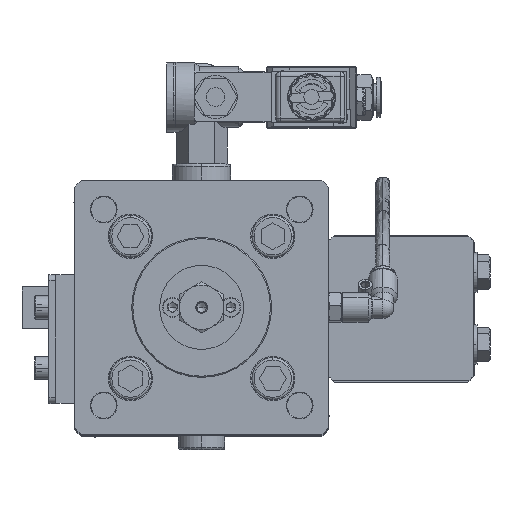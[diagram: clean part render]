
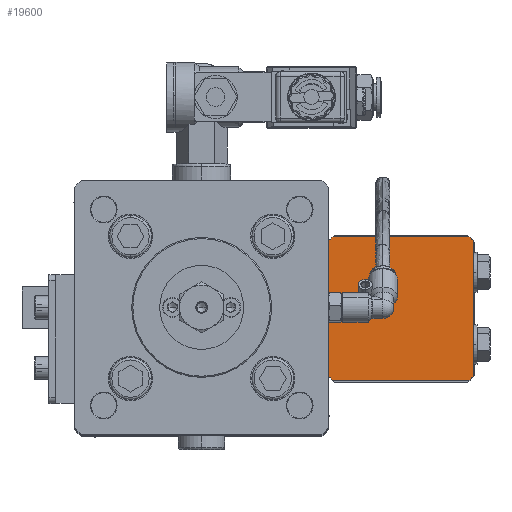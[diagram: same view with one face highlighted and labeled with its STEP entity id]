
A CAD part, top view. The second image highlights one B-rep face of the part: STEP entity #19600.
In plain terms, the highlighted planar face has unit normal (0, 0, 1) as drawn and (0, -1, 0) by its records, which use the part's own axes.
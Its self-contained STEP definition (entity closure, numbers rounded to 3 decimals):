
#408 = CARTESIAN_POINT ( 'NONE',  ( -31., 0., -31. ) ) ;
#1236 = CARTESIAN_POINT ( 'NONE',  ( 0., 0., 0. ) ) ;
#8181 = AXIS2_PLACEMENT_3D ( 'NONE', #38566, #96584, #46916 ) ;
#8419 = DIRECTION ( 'NONE',  ( 0., -1., 0. ) ) ;
#9592 = DIRECTION ( 'NONE',  ( 0., 0., 1. ) ) ;
#9859 = VECTOR ( 'NONE', #37179, 1000. ) ;
#12077 = CARTESIAN_POINT ( 'NONE',  ( 31., 0., -31. ) ) ;
#12364 = DIRECTION ( 'NONE',  ( 0., -1., 0. ) ) ;
#12486 = CARTESIAN_POINT ( 'NONE',  ( 31., 0., 29.073 ) ) ;
#12697 = VERTEX_POINT ( 'NONE', #83000 ) ;
#14365 = EDGE_CURVE ( 'NONE', #59374, #107198, #16052, .T. ) ;
#16052 = CIRCLE ( 'NONE', #8181, 42.5 ) ;
#17242 = CARTESIAN_POINT ( 'NONE',  ( -31., 0., 29.073 ) ) ;
#19600 = ADVANCED_FACE ( 'NONE', ( #69669 ), #34280, .F. ) ;
#19807 = EDGE_CURVE ( 'NONE', #53512, #73495, #76160, .T. ) ;
#23971 = EDGE_LOOP ( 'NONE', ( #65919, #29152, #58767, #88385, #36067, #90409, #102573, #64310 ) ) ;
#24554 = VECTOR ( 'NONE', #58549, 1000. ) ;
#29152 = ORIENTED_EDGE ( 'NONE', *, *, #42314, .F. ) ;
#33716 = CARTESIAN_POINT ( 'NONE',  ( -29.073, 0., 31. ) ) ;
#34280 = PLANE ( 'NONE',  #104602 ) ;
#36067 = ORIENTED_EDGE ( 'NONE', *, *, #93150, .T. ) ;
#37140 = CIRCLE ( 'NONE', #101269, 42.5 ) ;
#37179 = DIRECTION ( 'NONE',  ( 0., 0., -1. ) ) ;
#37377 = AXIS2_PLACEMENT_3D ( 'NONE', #62183, #12364, #70488 ) ;
#38566 = CARTESIAN_POINT ( 'NONE',  ( 0., 0., 0. ) ) ;
#39206 = CARTESIAN_POINT ( 'NONE',  ( 31., 0., -29.073 ) ) ;
#40701 = CARTESIAN_POINT ( 'NONE',  ( 0., 0., 0. ) ) ;
#40981 = CARTESIAN_POINT ( 'NONE',  ( -29.073, 0., -31. ) ) ;
#42314 = EDGE_CURVE ( 'NONE', #59374, #75694, #47210, .T. ) ;
#46916 = DIRECTION ( 'NONE',  ( 0., 0., 1. ) ) ;
#47210 = LINE ( 'NONE', #86547, #66633 ) ;
#48807 = EDGE_CURVE ( 'NONE', #69098, #12697, #88454, .T. ) ;
#49063 = DIRECTION ( 'NONE',  ( 0., 0., 1. ) ) ;
#53512 = VERTEX_POINT ( 'NONE', #12486 ) ;
#53814 = CARTESIAN_POINT ( 'NONE',  ( -31., 0., 31. ) ) ;
#55378 = CARTESIAN_POINT ( 'NONE',  ( -31., 0., -29.073 ) ) ;
#58029 = VERTEX_POINT ( 'NONE', #70641 ) ;
#58218 = CARTESIAN_POINT ( 'NONE',  ( 0., 0., 0. ) ) ;
#58549 = DIRECTION ( 'NONE',  ( -1., 0., 0. ) ) ;
#58767 = ORIENTED_EDGE ( 'NONE', *, *, #14365, .T. ) ;
#59374 = VERTEX_POINT ( 'NONE', #55378 ) ;
#59386 = DIRECTION ( 'NONE',  ( 0., 1., 0. ) ) ;
#61532 = DIRECTION ( 'NONE',  ( 0., 0., 1. ) ) ;
#62183 = CARTESIAN_POINT ( 'NONE',  ( 0., 0., 0. ) ) ;
#63019 = AXIS2_PLACEMENT_3D ( 'NONE', #58218, #8419, #66532 ) ;
#64310 = ORIENTED_EDGE ( 'NONE', *, *, #48807, .F. ) ;
#65580 = EDGE_CURVE ( 'NONE', #58029, #107198, #71376, .T. ) ;
#65919 = ORIENTED_EDGE ( 'NONE', *, *, #104492, .T. ) ;
#66532 = DIRECTION ( 'NONE',  ( 0., 0., 1. ) ) ;
#66633 = VECTOR ( 'NONE', #61532, 1000. ) ;
#67353 = CIRCLE ( 'NONE', #63019, 42.5 ) ;
#69098 = VERTEX_POINT ( 'NONE', #33716 ) ;
#69669 = FACE_OUTER_BOUND ( 'NONE', #23971, .T. ) ;
#70488 = DIRECTION ( 'NONE',  ( 0., 0., 1. ) ) ;
#70641 = CARTESIAN_POINT ( 'NONE',  ( 29.073, 0., -31. ) ) ;
#71376 = LINE ( 'NONE', #408, #24554 ) ;
#73495 = VERTEX_POINT ( 'NONE', #39206 ) ;
#75694 = VERTEX_POINT ( 'NONE', #17242 ) ;
#76160 = LINE ( 'NONE', #12077, #9859 ) ;
#77377 = CIRCLE ( 'NONE', #37377, 42.5 ) ;
#83000 = CARTESIAN_POINT ( 'NONE',  ( 29.073, 0., 31. ) ) ;
#86547 = CARTESIAN_POINT ( 'NONE',  ( -31., 0., -31. ) ) ;
#88385 = ORIENTED_EDGE ( 'NONE', *, *, #65580, .F. ) ;
#88454 = LINE ( 'NONE', #53814, #91040 ) ;
#90409 = ORIENTED_EDGE ( 'NONE', *, *, #19807, .F. ) ;
#91040 = VECTOR ( 'NONE', #103583, 1000. ) ;
#93150 = EDGE_CURVE ( 'NONE', #58029, #73495, #37140, .T. ) ;
#96584 = DIRECTION ( 'NONE',  ( 0., -1., 0. ) ) ;
#98733 = DIRECTION ( 'NONE',  ( 0., -1., 0. ) ) ;
#101269 = AXIS2_PLACEMENT_3D ( 'NONE', #40701, #98733, #49063 ) ;
#102573 = ORIENTED_EDGE ( 'NONE', *, *, #106494, .T. ) ;
#103583 = DIRECTION ( 'NONE',  ( 1., 0., 0. ) ) ;
#104492 = EDGE_CURVE ( 'NONE', #69098, #75694, #67353, .T. ) ;
#104602 = AXIS2_PLACEMENT_3D ( 'NONE', #1236, #59386, #9592 ) ;
#106494 = EDGE_CURVE ( 'NONE', #53512, #12697, #77377, .T. ) ;
#107198 = VERTEX_POINT ( 'NONE', #40981 ) ;
